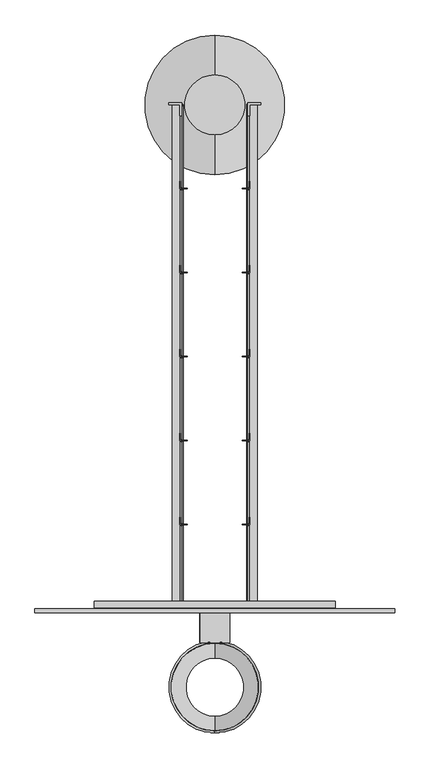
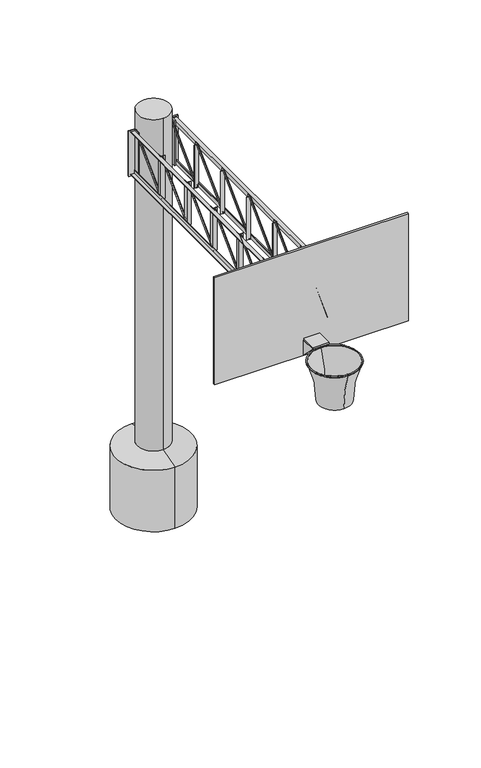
"""IFC4 building model written with IfcOpenShell, lengths in millimetres: proxy geometry, FDE_QE39_QE40_TabelaDeBasquete : QE39_LajeAlveolar."""

from ifc_helpers import new_model, si_unit, point, frame, frame_2d, origin, origin_2d, place, context, project, spatial, polyline, circle_curve, ellipse_curve, trimmed, segment, composite_curve, outline, extrude, source, transform, mapped, element, save
from ifc_brep_helpers import plane_surface, cylinder_surface, revolved_surface, advanced_brep


def specialty_equipment_72d1c6bf(model_context):
    return source(origin(), model_context, "Body", "SolidModel", [
        advanced_brep(
        [(0.0, 350.0, -150.0), (0.0, -350.0, -150.0), (0.0, -350.0, 450.0), (0.0, 350.0, 450.0), (0.0, 150.0, -150.0), (0.0, -150.0, -150.0), (0.0, 150.0, 500.0), (0.0, -150.0, 500.0)],
        [
            (0, 1, circle_curve(frame((0.0, 0.0, -150.0), z_axis=(0.0, 0.0, 1.0), x_axis=(0.0, -1.0, 0.0)), 350.0)),
            (1, 2),
            (2, 3, circle_curve(frame((0.0, 0.0, 450.0), z_axis=(0.0, 0.0, -1.0), x_axis=(0.0, -1.0, 0.0)), 350.0)),
            (3, 0),
            (1, 0, circle_curve(frame((0.0, 0.0, -150.0), z_axis=(0.0, 0.0, 1.0), x_axis=(0.0, -1.0, 0.0)), 350.0)),
            (3, 2, circle_curve(frame((0.0, 0.0, 450.0), z_axis=(0.0, 0.0, -1.0), x_axis=(0.0, -1.0, 0.0)), 350.0)),
            (4, 5, circle_curve(frame((0.0, 0.0, -150.0), z_axis=(0.0, 0.0, 1.0), x_axis=(0.0, -1.0, 0.0)), 150.0)),
            (5, 1),
            (0, 4),
            (5, 4, circle_curve(frame((0.0, 0.0, -150.0), z_axis=(0.0, 0.0, 1.0), x_axis=(0.0, -1.0, 0.0)), 150.0)),
            (6, 7, circle_curve(frame((0.0, 0.0, 500.0), z_axis=(0.0, 0.0, 1.0), x_axis=(0.0, -1.0, 0.0)), 150.0)),
            (7, 5),
            (4, 6),
            (7, 6, circle_curve(frame((0.0, 0.0, 500.0), z_axis=(0.0, 0.0, 1.0), x_axis=(0.0, -1.0, 0.0)), 150.0)),
            (2, 7),
            (6, 3),
        ],
        [
            cylinder_surface(frame((0.0, 0.0, 500.0), z_axis=(0.0, 0.0, -1.0), x_axis=(0.0, -1.0, 0.0)), 350.0),
            plane_surface(frame((0.0, 0.0, -150.0), z_axis=(0.0, 0.0, -1.0), x_axis=(0.0, -1.0, 0.0))),
            revolved_surface(polyline([(0.0, -150.0, -150.0), (0.0, -150.0, 500.0)]), (0.0, 0.0, 500.0), (0.0, 0.0, -1.0)),
            revolved_surface(polyline([(0.0, -150.0, 500.0), (0.0, -350.0, 450.0)]), (0.0, 0.0, 500.0), (0.0, 0.0, -1.0)),
        ],
        [
            (0, [[1, 2, 3, 4]]),
            (0, [[5, -4, 6, -2]]),
            (1, [[7, 8, -1, 9]]),
            (1, [[10, -9, -5, -8]]),
            (2, [[11, 12, -7, 13]]),
            (2, [[14, -13, -10, -12]]),
            (3, [[-3, 15, -11, 16]]),
            (3, [[-6, -16, -14, -15]]),
        ],
    ),
        extrude(outline(polyline([(-2482.0, 3180.0), (-2482.0, 3176.8), (-2516.8, 3176.8), (-2516.8, 3142.0), (-2520.0, 3142.0), (-2520.0, 3180.0), (-2482.0, 3180.0)])), frame((-602.5, 0.0, 0.0), z_axis=(1.0, 0.0, 0.0), x_axis=(0.0, 1.0, 0.0)), (0.0, 0.0, 1.0), 1205.0),
        extrude(outline(polyline([(-2482.0, 3600.0), (-2520.0, 3600.0), (-2520.0, 3638.0), (-2516.8, 3638.0), (-2516.8, 3603.2), (-2482.0, 3603.2), (-2482.0, 3600.0)])), frame((-602.5, 0.0, 0.0), z_axis=(1.0, 0.0, 0.0), x_axis=(0.0, 1.0, 0.0)), (0.0, 0.0, 1.0), 1205.0),
        extrude(outline(polyline([(-137.0, -2520.0), (-175.0, -2520.0), (-175.0, -2482.0), (-171.8, -2482.0), (-171.8, -2516.8), (-137.0, -2516.8), (-137.0, -2520.0)])), frame((0.0, 0.0, 3180.0), z_axis=(0.0, 0.0, 1.0), x_axis=(1.0, 0.0, 0.0)), (0.0, 0.0, 1.0), 420.0),
        extrude(outline(polyline([(137.0, -2520.0), (137.0, -2516.8), (171.8, -2516.8), (171.8, -2482.0), (175.0, -2482.0), (175.0, -2520.0), (137.0, -2520.0)])), frame((0.0, 0.0, 3180.0), z_axis=(0.0, 0.0, 1.0), x_axis=(1.0, 0.0, 0.0)), (0.0, 0.0, 1.0), 420.0),
        extrude(outline(polyline([(-137.0, -2100.0), (-175.0, -2100.0), (-175.0, -2062.0), (-171.8, -2062.0), (-171.8, -2096.8), (-137.0, -2096.8), (-137.0, -2100.0)])), frame((0.0, 0.0, 3180.0), z_axis=(0.0, 0.0, 1.0), x_axis=(1.0, 0.0, 0.0)), (0.0, 0.0, 1.0), 420.0),
        extrude(outline(polyline([(137.0, -2100.0), (137.0, -2096.8), (171.8, -2096.8), (171.8, -2062.0), (175.0, -2062.0), (175.0, -2100.0), (137.0, -2100.0)])), frame((0.0, 0.0, 3180.0), z_axis=(0.0, 0.0, 1.0), x_axis=(1.0, 0.0, 0.0)), (0.0, 0.0, 1.0), 420.0),
        extrude(outline(polyline([(-137.0, -1680.0), (-175.0, -1680.0), (-175.0, -1642.0), (-171.8, -1642.0), (-171.8, -1676.8), (-137.0, -1676.8), (-137.0, -1680.0)])), frame((0.0, 0.0, 3180.0), z_axis=(0.0, 0.0, 1.0), x_axis=(1.0, 0.0, 0.0)), (0.0, 0.0, 1.0), 420.0),
        extrude(outline(polyline([(137.0, -1680.0), (137.0, -1676.8), (171.8, -1676.8), (171.8, -1642.0), (175.0, -1642.0), (175.0, -1680.0), (137.0, -1680.0)])), frame((0.0, 0.0, 3180.0), z_axis=(0.0, 0.0, 1.0), x_axis=(1.0, 0.0, 0.0)), (0.0, 0.0, 1.0), 420.0),
        extrude(outline(polyline([(-137.0, -1260.0), (-175.0, -1260.0), (-175.0, -1222.0), (-171.8, -1222.0), (-171.8, -1256.8), (-137.0, -1256.8), (-137.0, -1260.0)])), frame((0.0, 0.0, 3180.0), z_axis=(0.0, 0.0, 1.0), x_axis=(1.0, 0.0, 0.0)), (0.0, 0.0, 1.0), 420.0),
        extrude(outline(polyline([(137.0, -1260.0), (137.0, -1256.8), (171.8, -1256.8), (171.8, -1222.0), (175.0, -1222.0), (175.0, -1260.0), (137.0, -1260.0)])), frame((0.0, 0.0, 3180.0), z_axis=(0.0, 0.0, 1.0), x_axis=(1.0, 0.0, 0.0)), (0.0, 0.0, 1.0), 420.0),
        extrude(outline(polyline([(-137.0, -840.0), (-175.0, -840.0), (-175.0, -802.0), (-171.8, -802.0), (-171.8, -836.8), (-137.0, -836.8), (-137.0, -840.0)])), frame((0.0, 0.0, 3180.0), z_axis=(0.0, 0.0, 1.0), x_axis=(1.0, 0.0, 0.0)), (0.0, 0.0, 1.0), 420.0),
        extrude(outline(polyline([(137.0, -840.0), (137.0, -836.8), (171.8, -836.8), (171.8, -802.0), (175.0, -802.0), (175.0, -840.0), (137.0, -840.0)])), frame((0.0, 0.0, 3180.0), z_axis=(0.0, 0.0, 1.0), x_axis=(1.0, 0.0, 0.0)), (0.0, 0.0, 1.0), 420.0),
        extrude(outline(polyline([(-137.0, -420.0), (-175.0, -420.0), (-175.0, -382.0), (-171.8, -382.0), (-171.8, -416.8), (-137.0, -416.8), (-137.0, -420.0)])), frame((0.0, 0.0, 3180.0), z_axis=(0.0, 0.0, 1.0), x_axis=(1.0, 0.0, 0.0)), (0.0, 0.0, 1.0), 420.0),
        extrude(outline(polyline([(137.0, -420.0), (137.0, -416.8), (171.8, -416.8), (171.8, -382.0), (175.0, -382.0), (175.0, -420.0), (137.0, -420.0)])), frame((0.0, 0.0, 3180.0), z_axis=(0.0, 0.0, 1.0), x_axis=(1.0, 0.0, 0.0)), (0.0, 0.0, 1.0), 420.0),
        extrude(outline(polyline([(-229.5, 9.5), (-165.5, 9.5), (-165.5, -54.5), (-175.0, -54.5), (-175.0, 0.0), (-229.5, 0.0), (-229.5, 9.5)])), frame((0.0, 0.0, 3169.0), z_axis=(0.0, 0.0, 1.0), x_axis=(1.0, 0.0, 0.0)), (0.0, 0.0, 1.0), 442.0),
        extrude(outline(polyline([(229.5, 9.5), (229.5, 0.0), (175.0, 0.0), (175.0, -54.5), (165.5, -54.5), (165.5, 9.5), (229.5, 9.5)])), frame((0.0, 0.0, 3169.0), z_axis=(0.0, 0.0, 1.0), x_axis=(1.0, 0.0, 0.0)), (0.0, 0.0, 1.0), 442.0),
        extrude(outline(polyline([(3562.0, -175.0), (3600.0, -175.0), (3600.0, -213.0), (3596.8, -213.0), (3596.8, -178.2), (3562.0, -178.2), (3562.0, -175.0)])), frame((0.0, -2520.0, 0.0), z_axis=(0.0, 1.0, 0.0), x_axis=(0.0, 0.0, 1.0)), (0.0, 0.0, 1.0), 2520.0),
        extrude(outline(polyline([(3562.0, 175.0), (3562.0, 178.2), (3596.8, 178.2), (3596.8, 213.0), (3600.0, 213.0), (3600.0, 175.0), (3562.0, 175.0)])), frame((0.0, -2520.0, 0.0), z_axis=(0.0, 1.0, 0.0), x_axis=(0.0, 0.0, 1.0)), (0.0, 0.0, 1.0), 2520.0),
        extrude(outline(polyline([(3218.0, -175.0), (3218.0, -178.2), (3183.2, -178.2), (3183.2, -213.0), (3180.0, -213.0), (3180.0, -175.0), (3218.0, -175.0)])), frame((0.0, -2520.0, 0.0), z_axis=(0.0, 1.0, 0.0), x_axis=(0.0, 0.0, 1.0)), (0.0, 0.0, 1.0), 2520.0),
        extrude(outline(polyline([(3218.0, 175.0), (3180.0, 175.0), (3180.0, 213.0), (3183.2, 213.0), (3183.2, 178.2), (3218.0, 178.2), (3218.0, 175.0)])), frame((0.0, -2520.0, 0.0), z_axis=(0.0, 1.0, 0.0), x_axis=(0.0, 0.0, 1.0)), (0.0, 0.0, 1.0), 2520.0),
        extrude(outline(composite_curve([segment(trimmed(circle_curve(origin_2d(), 150.0), [point((0.0, 150.0))], [point((0.0, -150.0))], False, "CARTESIAN"), True, "CONTINUOUS"), segment(trimmed(circle_curve(origin_2d(), 150.0), [point((0.0, -150.0))], [point((0.0, 150.0))], False, "CARTESIAN"), True, "CONTINUOUS")], self_intersect=False)), frame((0.0, 0.0, -150.0), z_axis=(0.0, 0.0, 1.0), x_axis=(1.0, 0.0, 0.0)), (0.0, 0.0, 1.0), 3900.0),
        extrude(outline(polyline([(-73.9310412, -2540.0), (75.2, -2540.0), (75.2, -2690.0), (-73.9310412, -2690.0), (-73.9310412, -2540.0)])), frame((0.0, 0.0, 3050.0), z_axis=(0.0, 0.0, 1.0), x_axis=(1.0, 0.0, 0.0)), (0.0, 0.0, 1.0), 18.0),
        extrude(outline(polyline([(-2540.0, 3050.0), (-2540.0, 2900.0), (-2690.0, 3050.0), (-2540.0, 3050.0)])), frame((-74.8, 0.0, 0.0), z_axis=(1.0, 0.0, 0.0), x_axis=(0.0, 1.0, 0.0)), (0.0, 0.0, 1.0), 2.0),
        extrude(outline(polyline([(-2540.0, 3050.0), (-2540.0, 2900.0), (-2690.0, 3050.0), (-2540.0, 3050.0)])), frame((72.2, 0.0, 0.0), z_axis=(1.0, 0.0, 0.0), x_axis=(0.0, 1.0, 0.0)), (0.0, 0.0, 1.0), 3.0),
        advanced_brep(
        [(0.2716802, -3141.5314, 3044.3298092), (0.2716802, -2681.5314, 3044.3298092), (0.2716802, -2691.5314, 3044.3298092), (0.2716802, -3131.5314, 3044.3298092)],
        [
            (0, 1, circle_curve(frame((0.2716802, -2911.5314, 3044.3298092), z_axis=(0.0, 0.0, 1.0), x_axis=(0.0, 1.0, 0.0)), 230.0)),
            (1, 2, circle_curve(frame((0.2716802, -2686.5314, 3044.3298092), z_axis=(1.0, 0.0, 0.0), x_axis=(0.0, 1.0, 0.0)), 5.0)),
            (2, 3, circle_curve(frame((0.2716802, -2911.5314, 3044.3298092), z_axis=(0.0, 0.0, -1.0), x_axis=(0.0, 1.0, 0.0)), 220.0)),
            (3, 0, circle_curve(frame((0.2716802, -3136.5314, 3044.3298092), z_axis=(1.0, 0.0, 0.0), x_axis=(0.0, -1.0, 0.0)), 5.0)),
            (2, 1, circle_curve(frame((0.2716802, -2686.5314, 3044.3298092), z_axis=(1.0, 0.0, 0.0), x_axis=(0.0, 1.0, 0.0)), 5.0)),
            (0, 3, circle_curve(frame((0.2716802, -3136.5314, 3044.3298092), z_axis=(1.0, 0.0, 0.0), x_axis=(0.0, -1.0, 0.0)), 5.0)),
            (1, 0, circle_curve(frame((0.2716802, -2911.5314, 3044.3298092), z_axis=(0.0, 0.0, 1.0), x_axis=(0.0, -1.0, 0.0)), 230.0)),
            (3, 2, circle_curve(frame((0.2716802, -2911.5314, 3044.3298092), z_axis=(0.0, 0.0, -1.0), x_axis=(0.0, -1.0, 0.0)), 220.0)),
        ],
        [
            revolved_surface(trimmed(ellipse_curve(frame((0.2716802, -2686.5314, 3044.3298092), z_axis=(-1.0, 0.0, 0.0), x_axis=(0.0, 1.0, 0.0)), 5.0, 5.0), [point((0.2716802, -2691.5314, 3044.3298092))], [point((0.2716802, -2681.5314, 3044.3298092))], True, "CARTESIAN"), (0.2716802, -2911.5314, 3210.3899891), (0.0, 0.0, -1.0)),
            revolved_surface(trimmed(ellipse_curve(frame((0.2716802, -2686.5314, 3044.3298092), z_axis=(-1.0, 0.0, 0.0), x_axis=(0.0, 1.0, 0.0)), 5.0, 5.0), [point((0.2716802, -2681.5314, 3044.3298092))], [point((0.2716802, -2691.5314, 3044.3298092))], True, "CARTESIAN"), (0.2716802, -2911.5314, 3210.3899891), (0.0, 0.0, -1.0)),
            revolved_surface(trimmed(ellipse_curve(frame((0.2716802, -3136.5314, 3044.3298092), z_axis=(1.0, 0.0, 0.0), x_axis=(0.0, -1.0, 0.0)), 5.0, 5.0), [point((0.2716802, -3131.5314, 3044.3298092))], [point((0.2716802, -3141.5314, 3044.3298092))], True, "CARTESIAN"), (0.2716802, -2911.5314, 3210.3899891), (0.0, 0.0, -1.0)),
            revolved_surface(trimmed(ellipse_curve(frame((0.2716802, -3136.5314, 3044.3298092), z_axis=(1.0, 0.0, 0.0), x_axis=(0.0, -1.0, 0.0)), 5.0, 5.0), [point((0.2716802, -3141.5314, 3044.3298092))], [point((0.2716802, -3131.5314, 3044.3298092))], True, "CARTESIAN"), (0.2716802, -2911.5314, 3210.3899891), (0.0, 0.0, -1.0)),
        ],
        [
            (0, [[1, 2, 3, 4]]),
            (1, [[-3, 5, -1, 6]]),
            (2, [[7, -4, 8, -2]]),
            (3, [[-8, -6, -7, -5]]),
        ],
    ),
        extrude(outline(polyline([(900.2, -2520.0), (900.2, -2540.0), (-899.8, -2540.0), (-899.8, -2520.0), (900.2, -2520.0)])), frame((0.0, 0.0, 2900.0), z_axis=(0.0, 0.0, 1.0), x_axis=(1.0, 0.0, 0.0)), (0.0, 0.0, 1.0), 1050.0),
        advanced_brep(
        [(0.2, -2762.2875334, 2668.6700903), (0.2, -3062.2875334, 2668.6700903), (0.2, -3136.2118556, 3043.6700903), (0.2, -2688.3632113, 3043.6700903), (0.2, -2767.2876942, 2668.6700903), (0.2, -3057.2873727, 2668.6700903), (0.2, -2693.7830904, 3043.6700903), (0.2, -3130.7919765, 3043.6700903)],
        [
            (0, 1, circle_curve(frame((0.2, -2912.2875334, 2668.6700903), z_axis=(0.0, 0.0, 1.0), x_axis=(0.0, -1.0, 0.0)), 150.0)),
            (1, 2, circle_curve(frame((0.2, -4011.672211, 2676.3028476), z_axis=(1.0, 0.0, 0.0), x_axis=(0.0, 0.0, 1.0)), 949.4153596)),
            (2, 3, circle_curve(frame((0.2, -2912.2875334, 3043.6700903), z_axis=(0.0, 0.0, -1.0), x_axis=(0.0, -1.0, 0.0)), 223.9243221)),
            (3, 0, circle_curve(frame((0.2, -1812.9028558, 2676.3028476), z_axis=(1.0, 0.0, 0.0), x_axis=(0.0, 0.0, 1.0)), 949.4153596)),
            (1, 0, circle_curve(frame((0.2, -2912.2875334, 2668.6700903), z_axis=(0.0, 0.0, 1.0), x_axis=(0.0, -1.0, 0.0)), 150.0)),
            (3, 2, circle_curve(frame((0.2, -2912.2875334, 3043.6700903), z_axis=(0.0, 0.0, -1.0), x_axis=(0.0, -1.0, 0.0)), 223.9243221)),
            (4, 5, circle_curve(frame((0.2, -2912.2875334, 2668.6700903), z_axis=(0.0, 0.0, 1.0), x_axis=(0.0, -1.0, 0.0)), 144.9998393)),
            (5, 1),
            (0, 4),
            (5, 4, circle_curve(frame((0.2, -2912.2875334, 2668.6700903), z_axis=(0.0, 0.0, 1.0), x_axis=(0.0, -1.0, 0.0)), 144.9998393)),
            (6, 7, circle_curve(frame((0.2, -2912.2875334, 3043.6700903), z_axis=(0.0, 0.0, 1.0), x_axis=(0.0, -1.0, 0.0)), 218.5044431)),
            (7, 5, circle_curve(frame((0.2, -4011.672211, 2676.3028476), z_axis=(-1.0, 0.0, 0.0), x_axis=(0.0, 0.0, 1.0)), 954.4153596)),
            (4, 6, circle_curve(frame((0.2, -1812.9028558, 2676.3028476), z_axis=(-1.0, 0.0, 0.0), x_axis=(0.0, 0.0, 1.0)), 954.4153596)),
            (7, 6, circle_curve(frame((0.2, -2912.2875334, 3043.6700903), z_axis=(0.0, 0.0, 1.0), x_axis=(0.0, -1.0, 0.0)), 218.5044431)),
            (2, 7),
            (6, 3),
        ],
        [
            revolved_surface(trimmed(ellipse_curve(frame((0.2, -4011.672211, 2676.3028476), z_axis=(-1.0, 0.0, 0.0), x_axis=(0.0, 0.0, 1.0)), 949.4153596, 949.4153596), [point((0.2, -3136.2118556, 3043.6700903))], [point((0.2, -3062.2875334, 2668.6700903))], True, "CARTESIAN"), (0.2, -2912.2875334, 3043.6700903), (0.0, 0.0, -1.0)),
            plane_surface(frame((0.2, -2912.2875334, 2668.6700903), z_axis=(0.0, 0.0, -1.0), x_axis=(0.0, -1.0, 0.0))),
            revolved_surface(trimmed(ellipse_curve(frame((0.2, -4011.672211, 2676.3028476), z_axis=(1.0, 0.0, 0.0), x_axis=(0.0, 0.0, 1.0)), 954.4153596, 954.4153596), [point((0.2, -3057.2873727, 2668.6700903))], [point((0.2, -3130.7919765, 3043.6700903))], True, "CARTESIAN"), (0.2, -2912.2875334, 3043.6700903), (0.0, 0.0, -1.0)),
            plane_surface(frame((0.2, -2912.2875334, 3043.6700903), z_axis=(0.0, 0.0, 1.0), x_axis=(0.0, -1.0, 0.0))),
        ],
        [
            (0, [[1, 2, 3, 4]]),
            (0, [[5, -4, 6, -2]]),
            (1, [[7, 8, -1, 9]]),
            (1, [[10, -9, -5, -8]]),
            (2, [[11, 12, -7, 13]]),
            (2, [[14, -13, -10, -12]]),
            (3, [[-3, 15, -11, 16]]),
            (3, [[-6, -16, -14, -15]]),
        ],
    ),
        extrude(outline(composite_curve([segment(trimmed(circle_curve(frame_2d((-9.7, 0.0)), 6.5), [point((-9.7, -6.5))], [point((-9.7, 6.5))], False, "CARTESIAN"), True, "CONTINUOUS"), segment(trimmed(circle_curve(frame_2d((-9.7, 0.0)), 6.5), [point((-9.7, 6.5))], [point((-9.7, -6.5))], False, "CARTESIAN"), True, "CONTINUOUS")], self_intersect=False)), frame((-175.0, -2520.0, 3180.0), z_axis=(0.0, 0.707106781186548, 0.707106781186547), x_axis=(-1.0, 0.0, 0.0)), (0.0, 0.0, 1.0), 593.9696962),
        extrude(outline(composite_curve([segment(trimmed(circle_curve(frame_2d((-9.7, 0.0)), 6.5), [point((-9.7, 6.5))], [point((-9.7, -6.5))], False, "CARTESIAN"), True, "CONTINUOUS"), segment(trimmed(circle_curve(frame_2d((-9.7, 0.0)), 6.5), [point((-9.7, -6.5))], [point((-9.7, 6.5))], False, "CARTESIAN"), True, "CONTINUOUS")], self_intersect=False)), frame((175.0, -2520.0, 3180.0), z_axis=(0.0, 0.707106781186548, 0.707106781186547), x_axis=(1.0, 0.0, 0.0)), (0.0, 0.0, 1.0), 593.9696962),
        extrude(outline(composite_curve([segment(trimmed(circle_curve(frame_2d((-9.7, 0.0)), 6.5), [point((-9.7, -6.5))], [point((-9.7, 6.5))], False, "CARTESIAN"), True, "CONTINUOUS"), segment(trimmed(circle_curve(frame_2d((-9.7, 0.0)), 6.5), [point((-9.7, 6.5))], [point((-9.7, -6.5))], False, "CARTESIAN"), True, "CONTINUOUS")], self_intersect=False)), frame((-175.0, -2100.0, 3180.0), z_axis=(0.0, 0.707106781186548, 0.707106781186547), x_axis=(-1.0, 0.0, 0.0)), (0.0, 0.0, 1.0), 593.9696962),
        extrude(outline(composite_curve([segment(trimmed(circle_curve(frame_2d((-9.7, 0.0)), 6.5), [point((-9.7, 6.5))], [point((-9.7, -6.5))], False, "CARTESIAN"), True, "CONTINUOUS"), segment(trimmed(circle_curve(frame_2d((-9.7, 0.0)), 6.5), [point((-9.7, -6.5))], [point((-9.7, 6.5))], False, "CARTESIAN"), True, "CONTINUOUS")], self_intersect=False)), frame((175.0, -2100.0, 3180.0), z_axis=(0.0, 0.707106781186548, 0.707106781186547), x_axis=(1.0, 0.0, 0.0)), (0.0, 0.0, 1.0), 593.9696962),
        extrude(outline(composite_curve([segment(trimmed(circle_curve(frame_2d((-9.7, 0.0)), 6.5), [point((-9.7, -6.5))], [point((-9.7, 6.5))], False, "CARTESIAN"), True, "CONTINUOUS"), segment(trimmed(circle_curve(frame_2d((-9.7, 0.0)), 6.5), [point((-9.7, 6.5))], [point((-9.7, -6.5))], False, "CARTESIAN"), True, "CONTINUOUS")], self_intersect=False)), frame((-175.0, -1680.0, 3180.0), z_axis=(0.0, 0.707106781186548, 0.707106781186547), x_axis=(-1.0, 0.0, 0.0)), (0.0, 0.0, 1.0), 593.9696962),
        extrude(outline(composite_curve([segment(trimmed(circle_curve(frame_2d((-9.7, 0.0)), 6.5), [point((-9.7, 6.5))], [point((-9.7, -6.5))], False, "CARTESIAN"), True, "CONTINUOUS"), segment(trimmed(circle_curve(frame_2d((-9.7, 0.0)), 6.5), [point((-9.7, -6.5))], [point((-9.7, 6.5))], False, "CARTESIAN"), True, "CONTINUOUS")], self_intersect=False)), frame((175.0, -1680.0, 3180.0), z_axis=(0.0, 0.707106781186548, 0.707106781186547), x_axis=(1.0, 0.0, 0.0)), (0.0, 0.0, 1.0), 593.9696962),
        extrude(outline(composite_curve([segment(trimmed(circle_curve(frame_2d((-9.7, 0.0)), 6.5), [point((-9.7, -6.5))], [point((-9.7, 6.5))], False, "CARTESIAN"), True, "CONTINUOUS"), segment(trimmed(circle_curve(frame_2d((-9.7, 0.0)), 6.5), [point((-9.7, 6.5))], [point((-9.7, -6.5))], False, "CARTESIAN"), True, "CONTINUOUS")], self_intersect=False)), frame((-175.0, -1260.0, 3180.0), z_axis=(0.0, 0.707106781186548, 0.707106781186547), x_axis=(-1.0, 0.0, 0.0)), (0.0, 0.0, 1.0), 593.9696962),
        extrude(outline(composite_curve([segment(trimmed(circle_curve(frame_2d((-9.7, 0.0)), 6.5), [point((-9.7, 6.5))], [point((-9.7, -6.5))], False, "CARTESIAN"), True, "CONTINUOUS"), segment(trimmed(circle_curve(frame_2d((-9.7, 0.0)), 6.5), [point((-9.7, -6.5))], [point((-9.7, 6.5))], False, "CARTESIAN"), True, "CONTINUOUS")], self_intersect=False)), frame((175.0, -1260.0, 3180.0), z_axis=(0.0, 0.707106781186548, 0.707106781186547), x_axis=(1.0, 0.0, 0.0)), (0.0, 0.0, 1.0), 593.9696962),
        extrude(outline(composite_curve([segment(trimmed(circle_curve(frame_2d((-9.7, 0.0)), 6.5), [point((-9.7, -6.5))], [point((-9.7, 6.5))], False, "CARTESIAN"), True, "CONTINUOUS"), segment(trimmed(circle_curve(frame_2d((-9.7, 0.0)), 6.5), [point((-9.7, 6.5))], [point((-9.7, -6.5))], False, "CARTESIAN"), True, "CONTINUOUS")], self_intersect=False)), frame((-175.0, -840.0, 3180.0), z_axis=(0.0, 0.707106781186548, 0.707106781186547), x_axis=(-1.0, 0.0, 0.0)), (0.0, 0.0, 1.0), 593.9696962),
        extrude(outline(composite_curve([segment(trimmed(circle_curve(frame_2d((-9.7, 0.0)), 6.5), [point((-9.7, 6.5))], [point((-9.7, -6.5))], False, "CARTESIAN"), True, "CONTINUOUS"), segment(trimmed(circle_curve(frame_2d((-9.7, 0.0)), 6.5), [point((-9.7, -6.5))], [point((-9.7, 6.5))], False, "CARTESIAN"), True, "CONTINUOUS")], self_intersect=False)), frame((175.0, -840.0, 3180.0), z_axis=(0.0, 0.707106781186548, 0.707106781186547), x_axis=(1.0, 0.0, 0.0)), (0.0, 0.0, 1.0), 593.9696962),
        extrude(outline(composite_curve([segment(trimmed(circle_curve(frame_2d((-9.7, 0.0)), 6.5), [point((-9.7, -6.5))], [point((-9.7, 6.5))], False, "CARTESIAN"), True, "CONTINUOUS"), segment(trimmed(circle_curve(frame_2d((-9.7, 0.0)), 6.5), [point((-9.7, 6.5))], [point((-9.7, -6.5))], False, "CARTESIAN"), True, "CONTINUOUS")], self_intersect=False)), frame((-175.0, -420.0, 3180.0), z_axis=(0.0, 0.707106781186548, 0.707106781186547), x_axis=(-1.0, 0.0, 0.0)), (0.0, 0.0, 1.0), 593.9696962),
        extrude(outline(composite_curve([segment(trimmed(circle_curve(frame_2d((-9.7, 0.0)), 6.5), [point((-9.7, 6.5))], [point((-9.7, -6.5))], False, "CARTESIAN"), True, "CONTINUOUS"), segment(trimmed(circle_curve(frame_2d((-9.7, 0.0)), 6.5), [point((-9.7, -6.5))], [point((-9.7, 6.5))], False, "CARTESIAN"), True, "CONTINUOUS")], self_intersect=False)), frame((175.0, -420.0, 3180.0), z_axis=(0.0, 0.707106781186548, 0.707106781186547), x_axis=(1.0, 0.0, 0.0)), (0.0, 0.0, 1.0), 593.9696962),
    ])


if __name__ == "__main__":
    model = new_model("IFC4")
    model_context = context("Model", 3, world=origin())
    ifc_project = project(units=[si_unit("LENGTHUNIT", "METRE", prefix="MILLI")], contexts=[model_context])
    site = spatial("IfcSite", under=ifc_project)
    building = spatial("IfcBuilding", under=site)
    placement = place(None, origin())
    specialty_equipment_shape = specialty_equipment_72d1c6bf(model_context)
    element("IfcBuildingElementProxy", 1, Name="FDE_QE39_QE40_TabelaDeBasquete : QE39_LajeAlveolar", ObjectType="FDE_QE39_QE40_TabelaDeBasquete : QE39_LajeAlveolar", at=placement, inside=building, context=model_context, shape_type="MappedRepresentation", body=[
        mapped(specialty_equipment_shape, transform((0.0, 0.0, 0.0), x_axis=(1.0, 0.0, 0.0), y_axis=(0.0, 1.0, 0.0), z_axis=(0.0, 0.0, 1.0))),
    ])
    save(model, "model.ifc")
